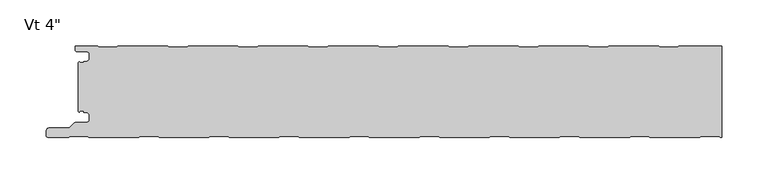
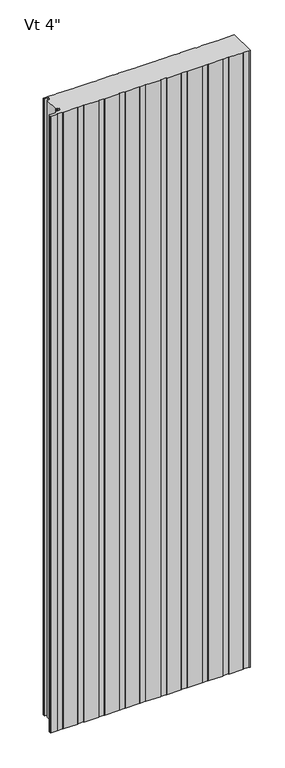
"""IFC4 building model written with IfcOpenShell, lengths in millimetres: plate geometry."""

from ifc_helpers import new_model, si_unit, point, frame_2d, origin, origin_with_axes, place, context, project, spatial, polyline, circle_curve, trimmed, segment, composite_curve, outline, extrude, source, transform, mapped, element, save


def plate_5ca264da(model_context):
    return source(origin(), model_context, "Body", "SweptSolid", [
        extrude(outline(composite_curve([segment(polyline([(-347.9683, -73.2760203), (-348.9999998, -72.2443205), (-348.9999998, -19.0328351), (-347.9686882, -18.0015235)]), True, "CONTINUOUS"), segment(trimmed(circle_curve(frame_2d((-346.968691, -18.0015175)), 0.9999972), [point((-347.9686882, -18.0015235))], [point((-346.968691, -19.0015147))], True, "CARTESIAN"), True, "CONTINUOUS"), segment(polyline([(-346.968691, -19.0015147), (-342.9684873, -19.0015147), (-342.9684873, -18.0015202), (-340.2762775, -18.0015202)]), True, "CONTINUOUS"), segment(trimmed(circle_curve(frame_2d((-340.2762775, -14.7015245)), 3.2999957), [point((-340.2762775, -18.0015202))], [point((-336.9762818, -14.7015245))], True, "CARTESIAN"), True, "CONTINUOUS"), segment(polyline([(-336.9762818, -14.7015245), (-336.9762818, -10.3015333)]), True, "CONTINUOUS"), segment(trimmed(circle_curve(frame_2d((-340.2762777, -10.3015333)), 3.2999959), [point((-336.9762818, -10.3015333))], [point((-340.2762777, -7.0015374))], True, "CARTESIAN"), True, "CONTINUOUS"), segment(polyline([(-340.2762777, -7.0015374), (-350.6962562, -7.0015374)]), True, "CONTINUOUS"), segment(trimmed(circle_curve(frame_2d((-350.6962562, -5.2315432)), 1.7699942), [point((-350.6962562, -7.0015374))], [point((-352.4662504, -5.2315432))], False, "CARTESIAN"), True, "CONTINUOUS"), segment(polyline([(-352.4662504, -5.2315432), (-352.4662504, -0.9999959), (-327.9659738, -0.9999959), (-326.5803312, -2.200235), (-307.2051649, -2.200235), (-305.8195319, -1.0000043), (-251.7661165, -1.0000043), (-250.3804836, -2.200235), (-231.0053173, -2.200235), (-229.6196843, -1.0000043), (-175.5662689, -1.0000043), (-174.180636, -2.200235), (-154.8054697, -2.200235), (-153.4198367, -1.0000043), (-99.3664213, -1.0000043), (-97.9807884, -2.200235), (-78.6056221, -2.200235), (-77.2199891, -1.0000043), (-23.1665737, -1.0000043), (-21.7809408, -2.200235), (-2.4057745, -2.200235), (-1.0201415, -1.0000043), (53.0332739, -1.0000043), (54.4189068, -2.200235), (73.7940731, -2.200235), (75.1797061, -1.0000043), (129.2331215, -1.0000043), (130.6187544, -2.200235), (149.9939207, -2.200235), (151.3795537, -1.0000043), (205.4329691, -1.0000043), (206.818602, -2.200235), (226.1937683, -2.200235), (227.5794013, -1.0000043), (281.6328167, -1.0000043), (283.0184496, -2.200235), (302.3936159, -2.200235), (303.7792489, -1.0000043), (350.4999998, -1.0000043), (350.4999998, -100.6051454), (348.445708, -100.6051454), (347.2403362, -99.3997736), (327.5209237, -99.3997736), (326.320693, -100.6000043), (272.2405612, -100.6000043), (271.0403305, -99.3997736), (251.320918, -99.3997736), (250.1206873, -100.6000043), (196.0405555, -100.6000043), (194.8403248, -99.3997736), (175.1209123, -99.3997736), (173.9206816, -100.6000043), (119.8405499, -100.6000043), (118.6403192, -99.3997736), (98.9209066, -99.3997736), (97.7206759, -100.6000043), (43.6405442, -100.6000043), (42.4403135, -99.3997736), (22.720901, -99.3997736), (21.5206703, -100.6000043), (-32.5594615, -100.6000043), (-33.7596922, -99.3997736), (-53.4791047, -99.3997736), (-54.6793354, -100.6000043), (-108.7594672, -100.6000043), (-109.9596979, -99.3997736), (-129.6791104, -99.3997736), (-130.8793411, -100.6000043), (-184.9594729, -100.6000043), (-186.1597036, -99.3997736), (-205.8791161, -99.3997736), (-207.0793468, -100.6000043), (-261.1594786, -100.6000043), (-262.3597093, -99.3997736), (-282.0791218, -99.3997736), (-283.2793525, -100.6000043), (-337.3594843, -100.6000043), (-338.559715, -99.3997736), (-358.2791275, -99.3997736), (-359.479096, -100.5997421), (-381.4521175, -100.5997421)]), True, "CONTINUOUS"), segment(trimmed(circle_curve(frame_2d((-381.4521175, -98.0295028)), 2.5702393), [point((-381.4521175, -100.5997421))], [point((-384.0125697, -97.8054172))], False, "CARTESIAN"), True, "CONTINUOUS"), segment(polyline([(-384.0125697, -97.8054172), (-383.5765707, -92.8235963)]), True, "CONTINUOUS"), segment(trimmed(circle_curve(frame_2d((-380.9198391, -93.3049869)), 2.6999926), [point((-383.5765707, -92.8235963))], [point((-380.9198391, -90.6049943))], False, "CARTESIAN"), True, "CONTINUOUS"), segment(polyline([(-380.9198391, -90.6049943), (-358.8247094, -90.6049943), (-353.3226383, -85.1029232)]), True, "CONTINUOUS"), segment(trimmed(circle_curve(frame_2d((-352.1205606, -86.3050009)), 1.6999946), [point((-353.3226383, -85.1029232))], [point((-352.1205606, -84.6050063))], False, "CARTESIAN"), True, "CONTINUOUS"), segment(polyline([(-352.1205606, -84.6050063), (-340.3096715, -84.6050063)]), True, "CONTINUOUS"), segment(trimmed(circle_curve(frame_2d((-340.3096715, -81.255011)), 3.3499953), [point((-340.3096715, -84.6050063))], [point((-336.9596762, -81.255011))], True, "CARTESIAN"), True, "CONTINUOUS"), segment(polyline([(-336.9596762, -81.255011), (-336.9596762, -76.8550198)]), True, "CONTINUOUS"), segment(trimmed(circle_curve(frame_2d((-340.3096715, -76.8550198)), 3.3499953), [point((-336.9596762, -76.8550198))], [point((-340.3096715, -73.5050245))], True, "CARTESIAN"), True, "CONTINUOUS"), segment(polyline([(-340.3096715, -73.5050245), (-343.0087826, -73.5050245), (-343.0087826, -72.1065456), (-346.767176, -72.1065456)]), True, "CONTINUOUS"), segment(trimmed(circle_curve(frame_2d((-346.7686906, -73.3065423)), 1.1999976), [point((-346.767176, -72.1065456))], [point((-347.9683, -73.2760203))], True, "CARTESIAN"), True, "CONTINUOUS")], self_intersect=False)), origin_with_axes(), (0.0, 0.0, 1.0), 2400.0),
    ])


if __name__ == "__main__":
    model = new_model("IFC4")
    model_context = context("Model", 3, world=origin())
    ifc_project = project(units=[si_unit("LENGTHUNIT", "METRE", prefix="MILLI")], contexts=[model_context])
    site = spatial("IfcSite", under=ifc_project)
    building = spatial("IfcBuilding", under=site)
    placement = place(None, origin())
    plate_shape = plate_5ca264da(model_context)
    element("IfcPlate", 1, ObjectType="KIP-30-Karrier-KP-R19-CP-Vt-SL_SL : Vt 4\"", at=placement, inside=building, context=model_context, shape_type="MappedRepresentation", body=[
        mapped(plate_shape, transform((0.0, 0.0, 0.0), x_axis=(1.0, 0.0, 0.0), y_axis=(0.0, 1.0, 0.0), z_axis=(0.0, 0.0, 1.0))),
    ])
    save(model, "model.ifc")
